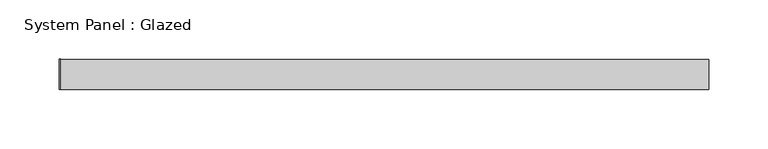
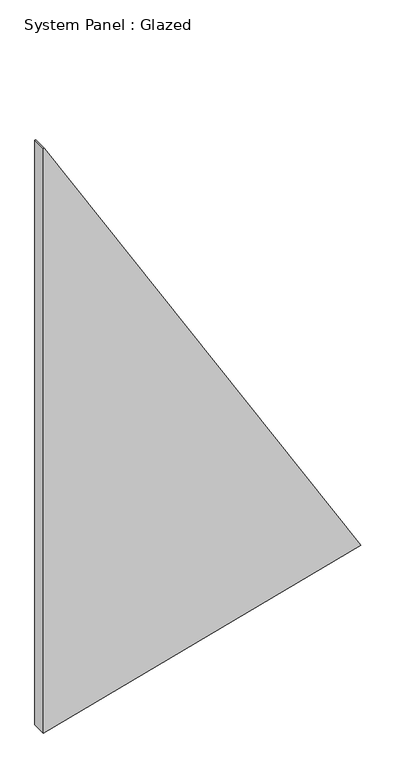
"""IFC4 building model written with IfcOpenShell, lengths in millimetres: plate geometry, System Panel : Glazed."""

from ifc_helpers import new_model, si_unit, frame, origin, place, context, project, spatial, polyline, outline, extrude, source, transform, mapped, element, save


def system_panel_glazed_ca898007(model_context):
    return source(origin(), model_context, "Body", "SweptSolid", [
        extrude(outline(polyline([(0.0, -273.2256803), (150.5885836, 273.2346389), (1064.6370152, -271.9251701), (1064.2761637, -273.2346389), (0.0, -273.2256803)])), frame((0.0, -44.45, 0.0), z_axis=(0.0, 1.0, 0.0), x_axis=(0.0, 0.0, 1.0)), (0.0, 0.0, 1.0), 25.4),
    ])


if __name__ == "__main__":
    model = new_model("IFC4")
    model_context = context("Model", 3, world=origin())
    ifc_project = project(units=[si_unit("LENGTHUNIT", "METRE", prefix="MILLI")], contexts=[model_context])
    site = spatial("IfcSite", under=ifc_project)
    building = spatial("IfcBuilding", under=site)
    placement = place(None, origin())
    system_panel_glazed_shape = system_panel_glazed_ca898007(model_context)
    element("IfcPlate", 1, ObjectType="System Panel : Glazed", at=placement, inside=building, context=model_context, shape_type="MappedRepresentation", body=[
        mapped(system_panel_glazed_shape, transform((0.0, 0.0, 0.0), x_axis=(1.0, 0.0, 0.0), y_axis=(0.0, 1.0, 0.0), z_axis=(0.0, 0.0, 1.0))),
    ])
    save(model, "model.ifc")
